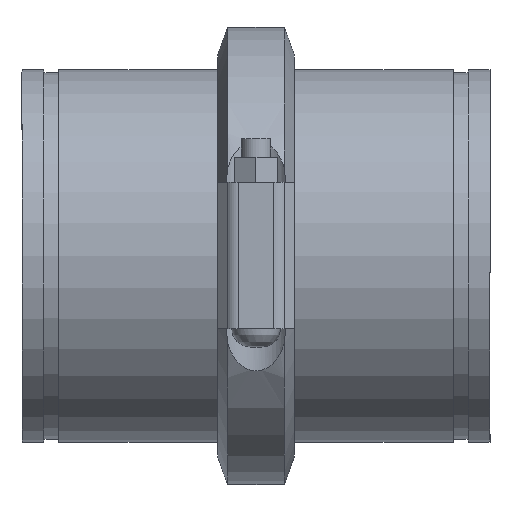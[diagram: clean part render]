
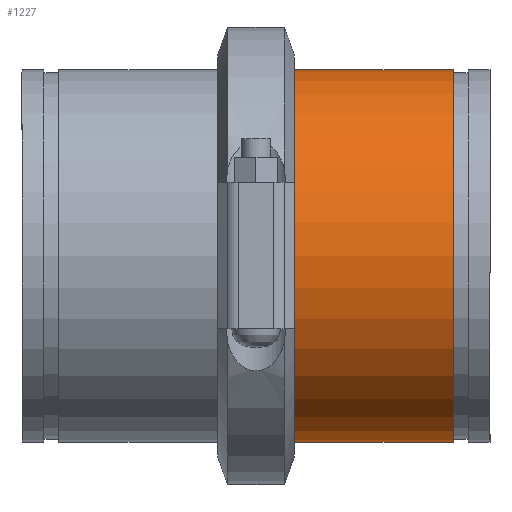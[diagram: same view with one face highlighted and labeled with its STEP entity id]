
A CAD part, top view. The second image highlights one B-rep face of the part: STEP entity #1227.
In plain terms, the highlighted cylindrical face has radius 161.925 mm (diameter 323.85 mm), a full revolution.
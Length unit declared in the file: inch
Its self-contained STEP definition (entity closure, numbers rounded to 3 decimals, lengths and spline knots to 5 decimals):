
#60=LINE('',#1932,#141);
#141=VECTOR('',#1579,6.375);
#222=CYLINDRICAL_SURFACE('',#1404,6.375);
#267=FACE_OUTER_BOUND('',#340,.T.);
#340=EDGE_LOOP('',(#805,#806,#807,#808,#809,#810));
#430=CIRCLE('',#1402,6.375);
#431=CIRCLE('',#1403,6.375);
#432=CIRCLE('',#1405,6.375);
#433=CIRCLE('',#1406,6.375);
#498=VERTEX_POINT('',#1923);
#499=VERTEX_POINT('',#1924);
#500=VERTEX_POINT('',#1928);
#501=VERTEX_POINT('',#1929);
#619=EDGE_CURVE('',#498,#499,#430,.T.);
#620=EDGE_CURVE('',#499,#498,#431,.T.);
#621=EDGE_CURVE('',#500,#501,#432,.T.);
#622=EDGE_CURVE('',#501,#500,#433,.T.);
#623=EDGE_CURVE('',#501,#499,#60,.T.);
#805=ORIENTED_EDGE('',*,*,#621,.F.);
#806=ORIENTED_EDGE('',*,*,#622,.F.);
#807=ORIENTED_EDGE('',*,*,#623,.T.);
#808=ORIENTED_EDGE('',*,*,#620,.T.);
#809=ORIENTED_EDGE('',*,*,#619,.T.);
#810=ORIENTED_EDGE('',*,*,#623,.F.);
#1227=ADVANCED_FACE('',(#267),#222,.T.);
#1402=AXIS2_PLACEMENT_3D('',#1925,#1569,#1570);
#1403=AXIS2_PLACEMENT_3D('',#1926,#1571,#1572);
#1404=AXIS2_PLACEMENT_3D('',#1927,#1573,#1574);
#1405=AXIS2_PLACEMENT_3D('',#1930,#1575,#1576);
#1406=AXIS2_PLACEMENT_3D('',#1931,#1577,#1578);
#1569=DIRECTION('center_axis',(-1.,0.,0.));
#1570=DIRECTION('ref_axis',(0.,0.,1.));
#1571=DIRECTION('center_axis',(-1.,0.,0.));
#1572=DIRECTION('ref_axis',(0.,0.,1.));
#1573=DIRECTION('center_axis',(-1.,0.,0.));
#1574=DIRECTION('ref_axis',(0.,1.,0.));
#1575=DIRECTION('center_axis',(-1.,0.,0.));
#1576=DIRECTION('ref_axis',(0.,0.,1.));
#1577=DIRECTION('center_axis',(-1.,0.,0.));
#1578=DIRECTION('ref_axis',(0.,0.,1.));
#1579=DIRECTION('',(1.,0.,0.));
#1923=CARTESIAN_POINT('',(2.735,6.375,0.));
#1924=CARTESIAN_POINT('',(2.735,-6.375,0.));
#1925=CARTESIAN_POINT('Origin',(2.735,0.,0.));
#1926=CARTESIAN_POINT('Origin',(2.735,0.,0.));
#1927=CARTESIAN_POINT('Origin',(0.,0.,
0.));
#1928=CARTESIAN_POINT('',(-2.735,6.375,0.));
#1929=CARTESIAN_POINT('',(-2.735,-6.375,0.));
#1930=CARTESIAN_POINT('Origin',(-2.735,0.,0.));
#1931=CARTESIAN_POINT('Origin',(-2.735,0.,0.));
#1932=CARTESIAN_POINT('',(0.,-6.375,0.));
